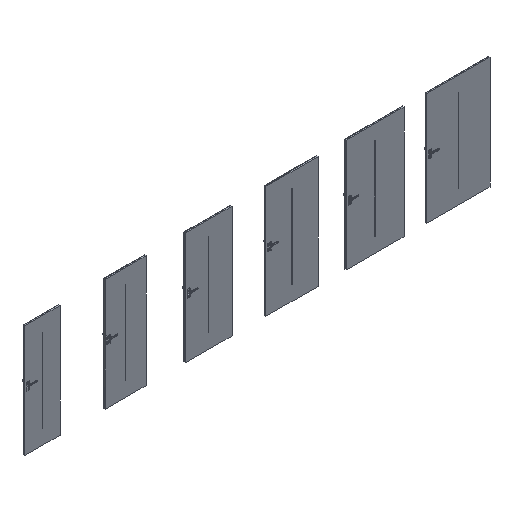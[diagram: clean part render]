
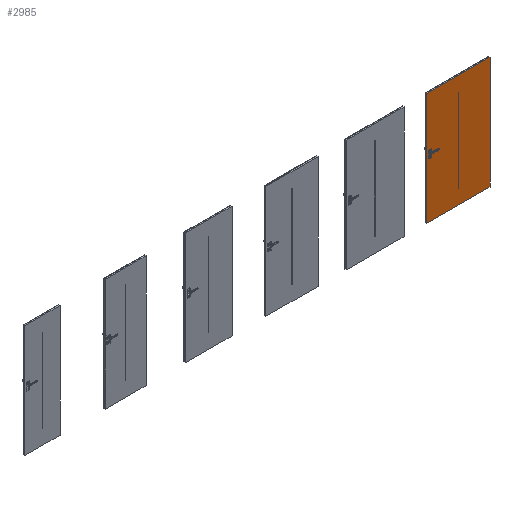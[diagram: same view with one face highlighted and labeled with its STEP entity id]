
A CAD part, isometric view. The second image highlights one B-rep face of the part: STEP entity #2985.
In plain terms, the highlighted planar face has unit normal (0, -1, 0).
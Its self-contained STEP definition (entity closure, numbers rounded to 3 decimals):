
#833=FACE_BOUND('',#5870,.T.);
#834=FACE_BOUND('',#5871,.T.);
#1977=CIRCLE('',#19684,3.);
#1978=CIRCLE('',#19685,3.);
#2985=ADVANCED_FACE('',(#833,#834),#3895,.F.);
#3895=PLANE('',#19686);
#5870=EDGE_LOOP('',(#8999,#9000,#9001,#9002));
#5871=EDGE_LOOP('',(#9003,#9004,#9005,#9006));
#8999=ORIENTED_EDGE('',*,*,#14579,.F.);
#9000=ORIENTED_EDGE('',*,*,#14580,.F.);
#9001=ORIENTED_EDGE('',*,*,#14581,.F.);
#9002=ORIENTED_EDGE('',*,*,#14582,.F.);
#9003=ORIENTED_EDGE('',*,*,#14583,.T.);
#9004=ORIENTED_EDGE('',*,*,#14584,.F.);
#9005=ORIENTED_EDGE('',*,*,#14577,.F.);
#9006=ORIENTED_EDGE('',*,*,#14585,.T.);
#12535=VERTEX_POINT('',#31796);
#12536=VERTEX_POINT('',#31798);
#12537=VERTEX_POINT('',#31802);
#12538=VERTEX_POINT('',#31803);
#12539=VERTEX_POINT('',#31805);
#12540=VERTEX_POINT('',#31807);
#12541=VERTEX_POINT('',#31810);
#12542=VERTEX_POINT('',#31811);
#14577=EDGE_CURVE('',#12535,#12536,#16681,.T.);
#14579=EDGE_CURVE('',#12537,#12538,#16683,.T.);
#14580=EDGE_CURVE('',#12539,#12537,#1977,.T.);
#14581=EDGE_CURVE('',#12540,#12539,#16684,.T.);
#14582=EDGE_CURVE('',#12538,#12540,#1978,.T.);
#14583=EDGE_CURVE('',#12541,#12542,#16685,.T.);
#14584=EDGE_CURVE('',#12536,#12542,#16686,.T.);
#14585=EDGE_CURVE('',#12535,#12541,#16687,.T.);
#16681=LINE('',#31797,#18121);
#16683=LINE('',#31801,#18123);
#16684=LINE('',#31806,#18124);
#16685=LINE('',#31809,#18125);
#16686=LINE('',#31812,#18126);
#16687=LINE('',#31813,#18127);
#18121=VECTOR('',#23058,1.);
#18123=VECTOR('',#23062,1.);
#18124=VECTOR('',#23065,1.);
#18125=VECTOR('',#23068,1.);
#18126=VECTOR('',#23069,1.);
#18127=VECTOR('',#23070,1.);
#19684=AXIS2_PLACEMENT_3D('',#31804,#23063,#23064);
#19685=AXIS2_PLACEMENT_3D('',#31808,#23066,#23067);
#19686=AXIS2_PLACEMENT_3D('',#31814,#23071,#23072);
#23058=DIRECTION('',(1.,0.,0.));
#23062=DIRECTION('',(0.,0.,-1.));
#23063=DIRECTION('',(0.,-1.,0.));
#23064=DIRECTION('',(1.,0.,0.));
#23065=DIRECTION('',(0.,0.,1.));
#23066=DIRECTION('',(0.,-1.,0.));
#23067=DIRECTION('',(1.,0.,0.));
#23068=DIRECTION('',(1.,0.,0.));
#23069=DIRECTION('',(0.,0.,-1.));
#23070=DIRECTION('',(0.,0.,-1.));
#23071=DIRECTION('',(0.,1.,0.));
#23072=DIRECTION('',(-1.,0.,0.));
#31796=CARTESIAN_POINT('',(6930.5,-39.3,2027.));
#31797=CARTESIAN_POINT('',(7180.5,-39.3,2027.));
#31798=CARTESIAN_POINT('',(8069.5,-39.3,2027.));
#31801=CARTESIAN_POINT('',(7497.,-39.3,268.));
#31802=CARTESIAN_POINT('',(7497.,-39.3,1759.));
#31803=CARTESIAN_POINT('',(7497.,-39.3,268.));
#31804=CARTESIAN_POINT('',(7500.,-39.3,1759.));
#31805=CARTESIAN_POINT('',(7503.,-39.3,1759.));
#31806=CARTESIAN_POINT('',(7503.,-39.3,1759.));
#31807=CARTESIAN_POINT('',(7503.,-39.3,268.));
#31808=CARTESIAN_POINT('',(7500.,-39.3,268.));
#31809=CARTESIAN_POINT('',(7180.5,-39.3,0.));
#31810=CARTESIAN_POINT('',(6930.5,-39.3,0.));
#31811=CARTESIAN_POINT('',(8069.5,-39.3,0.));
#31812=CARTESIAN_POINT('',(8069.5,-39.3,2027.));
#31813=CARTESIAN_POINT('',(6930.5,-39.3,2027.));
#31814=CARTESIAN_POINT('',(7180.5,-39.3,2027.));
